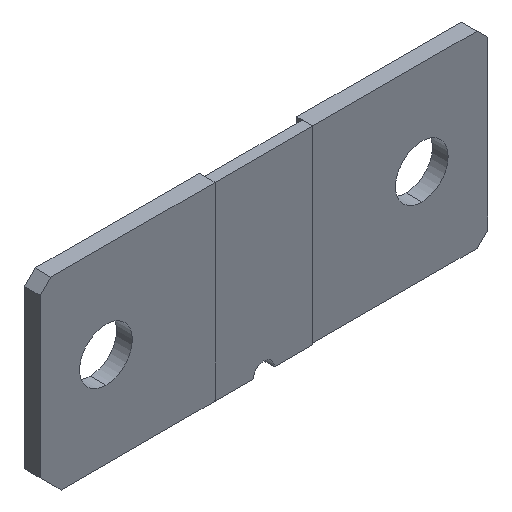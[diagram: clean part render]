
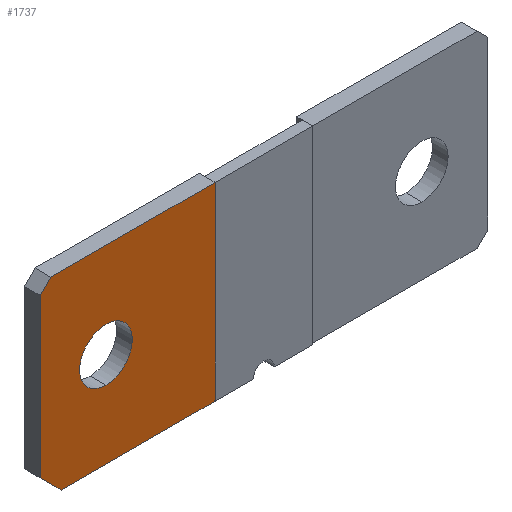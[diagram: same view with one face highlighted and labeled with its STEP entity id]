
A CAD part, isometric view. The second image highlights one B-rep face of the part: STEP entity #1737.
In plain terms, the highlighted planar face has unit normal (0, -1, 0).
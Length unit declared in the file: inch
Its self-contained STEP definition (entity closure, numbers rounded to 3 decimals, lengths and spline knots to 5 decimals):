
#1 = ORIENTED_EDGE ( 'NONE', *, *, #2324, .T. ) ;
#36 = EDGE_CURVE ( 'NONE', #430, #121, #2193, .T. ) ;
#37 = VERTEX_POINT ( 'NONE', #2180 ) ;
#67 = EDGE_LOOP ( 'NONE', ( #795, #947, #1796, #1676, #2214, #1168 ) ) ;
#121 = VERTEX_POINT ( 'NONE', #1031 ) ;
#127 = LINE ( 'NONE', #1507, #2084 ) ;
#175 = AXIS2_PLACEMENT_3D ( 'NONE', #672, #2302, #812 ) ;
#284 = FACE_BOUND ( 'NONE', #1970, .T. ) ;
#294 = VERTEX_POINT ( 'NONE', #1591 ) ;
#298 = DIRECTION ( 'NONE',  ( 0., 1., 0. ) ) ;
#299 = DIRECTION ( 'NONE',  ( 0., 0., 1. ) ) ;
#351 = CARTESIAN_POINT ( 'NONE',  ( 0.01742, 0., -0.17502 ) ) ;
#365 = EDGE_CURVE ( 'NONE', #442, #294, #863, .T. ) ;
#398 = CARTESIAN_POINT ( 'NONE',  ( 0.83342, 0., -0.68652 ) ) ;
#430 = VERTEX_POINT ( 'NONE', #949 ) ;
#442 = VERTEX_POINT ( 'NONE', #1689 ) ;
#559 = EDGE_CURVE ( 'NONE', #1354, #37, #1364, .T. ) ;
#560 = DIRECTION ( 'NONE',  ( 0., 0., 1. ) ) ;
#575 = EDGE_CURVE ( 'NONE', #2291, #430, #127, .T. ) ;
#595 = VERTEX_POINT ( 'NONE', #686 ) ;
#622 = CIRCLE ( 'NONE', #921, 0.197 ) ;
#654 = ORIENTED_EDGE ( 'NONE', *, *, #559, .T. ) ;
#659 = FACE_OUTER_BOUND ( 'NONE', #67, .T. ) ;
#672 = CARTESIAN_POINT ( 'NONE',  ( 0., 0., 0. ) ) ;
#686 = CARTESIAN_POINT ( 'NONE',  ( -0.47458, 0., 0.65148 ) ) ;
#739 = CARTESIAN_POINT ( 'NONE',  ( -0.47458, 0., -0.52952 ) ) ;
#763 = DIRECTION ( 'NONE',  ( -0.707, 0., 0.707 ) ) ;
#795 = ORIENTED_EDGE ( 'NONE', *, *, #36, .F. ) ;
#812 = DIRECTION ( 'NONE',  ( 0., 0., 1. ) ) ;
#839 = CARTESIAN_POINT ( 'NONE',  ( -0.39558, 0., 0.73048 ) ) ;
#863 = LINE ( 'NONE', #1998, #2080 ) ;
#921 = AXIS2_PLACEMENT_3D ( 'NONE', #2290, #1741, #299 ) ;
#937 = CARTESIAN_POINT ( 'NONE',  ( -0.31758, 0., -0.68652 ) ) ;
#947 = ORIENTED_EDGE ( 'NONE', *, *, #575, .F. ) ;
#949 = CARTESIAN_POINT ( 'NONE',  ( 0.83342, 0., 0.73048 ) ) ;
#973 = VECTOR ( 'NONE', #2147, 39.37008 ) ;
#992 = CARTESIAN_POINT ( 'NONE',  ( 0.01742, 0., 0.02198 ) ) ;
#1003 = DIRECTION ( 'NONE',  ( 0., 0., 1. ) ) ;
#1031 = CARTESIAN_POINT ( 'NONE',  ( 0.83342, 0., -0.68652 ) ) ;
#1091 = LINE ( 'NONE', #739, #1690 ) ;
#1168 = ORIENTED_EDGE ( 'NONE', *, *, #1553, .F. ) ;
#1310 = DIRECTION ( 'NONE',  ( -1., 0., 0. ) ) ;
#1354 = VERTEX_POINT ( 'NONE', #351 ) ;
#1364 = CIRCLE ( 'NONE', #1407, 0.197 ) ;
#1389 = PLANE ( 'NONE',  #175 ) ;
#1407 = AXIS2_PLACEMENT_3D ( 'NONE', #992, #298, #1003 ) ;
#1431 = CARTESIAN_POINT ( 'NONE',  ( -0.47458, 0., 0.65148 ) ) ;
#1464 = DIRECTION ( 'NONE',  ( 0., 0., -1. ) ) ;
#1473 = LINE ( 'NONE', #1431, #973 ) ;
#1507 = CARTESIAN_POINT ( 'NONE',  ( -0.39558, 0., 0.73048 ) ) ;
#1516 = EDGE_CURVE ( 'NONE', #595, #2291, #1473, .T. ) ;
#1553 = EDGE_CURVE ( 'NONE', #121, #442, #2020, .T. ) ;
#1591 = CARTESIAN_POINT ( 'NONE',  ( -0.47458, 0., -0.52952 ) ) ;
#1595 = VECTOR ( 'NONE', #1310, 39.37008 ) ;
#1676 = ORIENTED_EDGE ( 'NONE', *, *, #2182, .F. ) ;
#1689 = CARTESIAN_POINT ( 'NONE',  ( -0.31758, 0., -0.68652 ) ) ;
#1690 = VECTOR ( 'NONE', #560, 39.37008 ) ;
#1712 = DIRECTION ( 'NONE',  ( 1., 0., 0. ) ) ;
#1737 = ADVANCED_FACE ( 'NONE', ( #284, #659 ), #1389, .F. ) ;
#1741 = DIRECTION ( 'NONE',  ( 0., 1., 0. ) ) ;
#1796 = ORIENTED_EDGE ( 'NONE', *, *, #1516, .F. ) ;
#1934 = VECTOR ( 'NONE', #1464, 39.37008 ) ;
#1970 = EDGE_LOOP ( 'NONE', ( #1, #654 ) ) ;
#1998 = CARTESIAN_POINT ( 'NONE',  ( -0.31758, 0., -0.68652 ) ) ;
#2020 = LINE ( 'NONE', #937, #1595 ) ;
#2080 = VECTOR ( 'NONE', #763, 39.37008 ) ;
#2084 = VECTOR ( 'NONE', #1712, 39.37008 ) ;
#2147 = DIRECTION ( 'NONE',  ( 0.707, 0., 0.707 ) ) ;
#2180 = CARTESIAN_POINT ( 'NONE',  ( 0.01742, 0., 0.21898 ) ) ;
#2182 = EDGE_CURVE ( 'NONE', #294, #595, #1091, .T. ) ;
#2193 = LINE ( 'NONE', #398, #1934 ) ;
#2214 = ORIENTED_EDGE ( 'NONE', *, *, #365, .F. ) ;
#2290 = CARTESIAN_POINT ( 'NONE',  ( 0.01742, 0., 0.02198 ) ) ;
#2291 = VERTEX_POINT ( 'NONE', #839 ) ;
#2302 = DIRECTION ( 'NONE',  ( 0., 1., 0. ) ) ;
#2324 = EDGE_CURVE ( 'NONE', #37, #1354, #622, .T. ) ;
